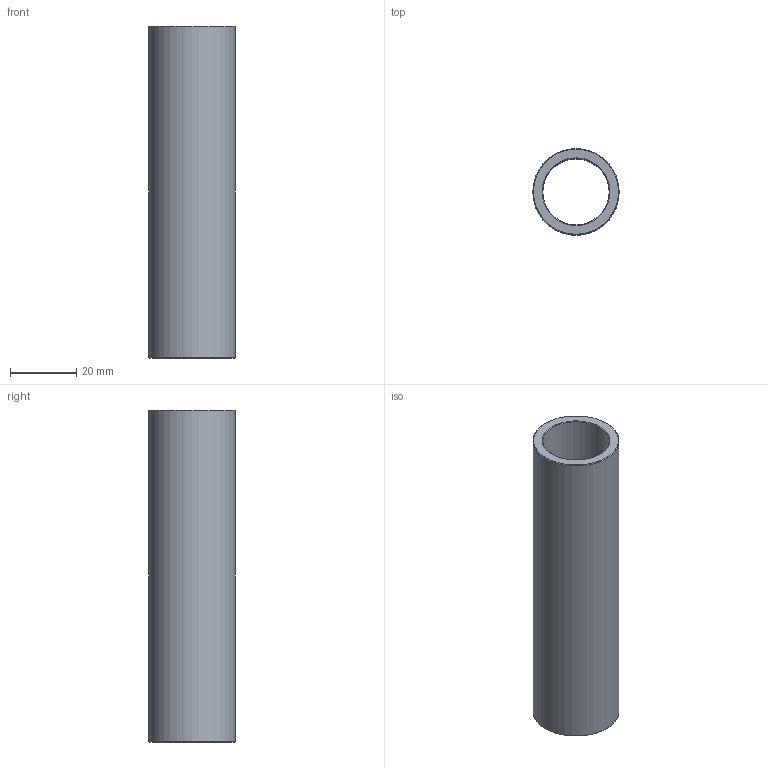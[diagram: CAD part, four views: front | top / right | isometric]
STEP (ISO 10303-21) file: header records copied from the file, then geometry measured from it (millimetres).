
FILE_DESCRIPTION(('STEP AP203'),'1');
FILE_NAME('C:/Users/Rodrigo/Desktop/GA3.020.100-1.step','2016-11-07T13:47:11',(' '),(' '),'Spatial InterOp 3D',' ',' ');
FILE_SCHEMA(('CONFIG_CONTROL_DESIGN'));
Length unit declared in the file: millimetre
Products named in the file (1): 1
Bounding box: 26 x 26 x 100 mm (x, y, z)
Volume: 21671.2 mm3; surface area: 14851 mm2
Topology: 1 solids, 1 shells, 8 faces, 14 edges, 8 vertices
Faces by surface type: cone 4, cylinder 2, plane 2
Full cylindrical faces by diameter (mm): 20 x1, 26 x1
Entity records: 212 total; most frequent: DIRECTION 34, CARTESIAN_POINT 25, AXIS2_PLACEMENT_3D 17, EDGE_LOOP 16, ORIENTED_EDGE 16, FACE_OUTER_BOUND 10, ADVANCED_FACE 8, EDGE_CURVE 8
